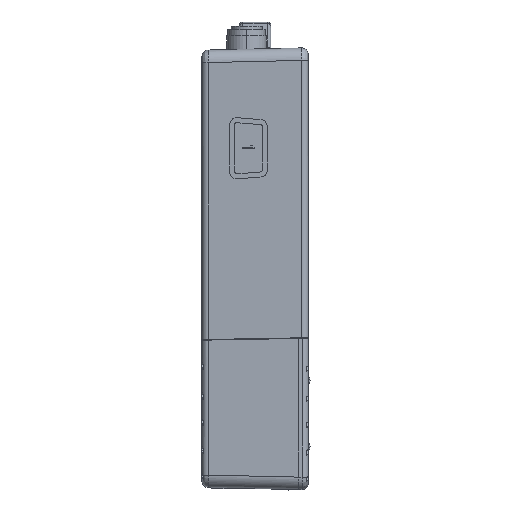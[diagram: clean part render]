
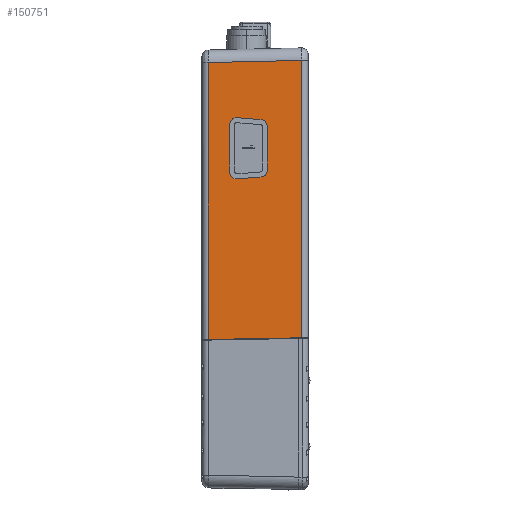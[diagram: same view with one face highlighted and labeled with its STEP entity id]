
A CAD part, left-side view. The second image highlights one B-rep face of the part: STEP entity #150751.
In plain terms, the highlighted planar face has unit normal (-1, 0.023, 0).
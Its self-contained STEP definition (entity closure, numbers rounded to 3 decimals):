
#138118=CARTESIAN_POINT('',(-30.754,7.523,
-21.609));
#138126=DIRECTION('',(-0.023,-1.,0.017));
#138127=VECTOR('',#138126,15.006);
#138128=CARTESIAN_POINT('',(-30.754,7.523,
-21.609));
#138129=LINE('',#138128,#138127);
#138136=CARTESIAN_POINT('',(-31.094,-7.477,
-21.347));
#140140=DIRECTION('',(0.,0.,1.));
#140141=VECTOR('',#140140,44.332);
#140142=CARTESIAN_POINT('',(-30.754,7.523,
-21.609));
#140143=LINE('',#140142,#140141);
#140144=DIRECTION('',(-0.023,-0.999,0.023));
#140145=VECTOR('',#140144,15.008);
#140146=CARTESIAN_POINT('',(-30.754,7.523,
22.723));
#140147=LINE('',#140146,#140145);
#140148=DIRECTION('',(0.,0.,-1.));
#140149=VECTOR('',#140148,44.41);
#140150=CARTESIAN_POINT('',(-31.094,-7.477,
23.063));
#140151=LINE('',#140150,#140149);
#140188=DIRECTION('',(-0.023,-0.996,0.083));
#140189=VECTOR('',#140188,3.813);
#140190=CARTESIAN_POINT('',(-30.86,2.848,
4.089));
#140191=LINE('',#140190,#140189);
#140192=DIRECTION('',(0.,0.,1.));
#140193=VECTOR('',#140192,6.976);
#140194=CARTESIAN_POINT('',(-30.969,-1.959,
5.502));
#140195=LINE('',#140194,#140193);
#140196=DIRECTION('',(0.023,0.996,0.083));
#140197=VECTOR('',#140196,3.813);
#140198=CARTESIAN_POINT('',(-30.946,-0.951,
13.574));
#140199=LINE('',#140198,#140197);
#140200=DIRECTION('',(0.,0.,-1.));
#140201=VECTOR('',#140200,7.609);
#140202=CARTESIAN_POINT('',(-30.833,4.039,
12.795));
#140203=LINE('',#140202,#140201);
#140232=CARTESIAN_POINT('',(-30.754,7.523,
22.723));
#141132=CARTESIAN_POINT('',(-30.858,2.94,
5.185));
#141133=DIRECTION('',(1.,-0.023,0.));
#141134=DIRECTION('',(-0.002,-0.083,
-0.997));
#141135=AXIS2_PLACEMENT_3D('',#141132,#141133,#141134);
#141145=CARTESIAN_POINT('',(-30.944,-0.859,
5.502));
#141146=DIRECTION('',(1.,-0.023,0.));
#141147=DIRECTION('',(-0.023,-1.,
0.));
#141148=AXIS2_PLACEMENT_3D('',#141145,#141146,#141147);
#141158=CARTESIAN_POINT('',(-30.944,-0.859,
12.478));
#141159=DIRECTION('',(1.,-0.023,0.));
#141160=DIRECTION('',(-0.002,-0.083,0.997));
#141161=AXIS2_PLACEMENT_3D('',#141158,#141159,#141160);
#141171=CARTESIAN_POINT('',(-30.858,2.94,
12.795));
#141172=DIRECTION('',(1.,-0.023,0.));
#141173=DIRECTION('',(0.023,1.,0.));
#141174=AXIS2_PLACEMENT_3D('',#141171,#141172,#141173);
#146237=VERTEX_POINT('',#140232);
#146238=VERTEX_POINT('',#138118);
#146241=VERTEX_POINT('',#138136);
#146242=CARTESIAN_POINT('',(-31.094,-7.477,
23.063));
#146243=VERTEX_POINT('',#146242);
#147428=CARTESIAN_POINT('',(-30.86,2.848,
4.089));
#147429=VERTEX_POINT('',#147428);
#147430=CARTESIAN_POINT('',(-30.833,4.039,
5.185));
#147431=VERTEX_POINT('',#147430);
#147436=CARTESIAN_POINT('',(-30.969,-1.959,
5.502));
#147437=VERTEX_POINT('',#147436);
#147438=CARTESIAN_POINT('',(-30.946,-0.951,
4.406));
#147439=VERTEX_POINT('',#147438);
#147444=CARTESIAN_POINT('',(-30.946,-0.951,
13.574));
#147445=VERTEX_POINT('',#147444);
#147446=CARTESIAN_POINT('',(-30.969,-1.959,
12.478));
#147447=VERTEX_POINT('',#147446);
#147452=CARTESIAN_POINT('',(-30.833,4.039,
12.795));
#147453=VERTEX_POINT('',#147452);
#147454=CARTESIAN_POINT('',(-30.86,2.848,
13.891));
#147455=VERTEX_POINT('',#147454);
#150721=CARTESIAN_POINT('',(-30.732,8.5,-47.53));
#150722=DIRECTION('',(-1.,0.023,0.));
#150723=DIRECTION('',(0.,0.,-1.));
#150724=AXIS2_PLACEMENT_3D('',#150721,#150722,#150723);
#150725=PLANE('',#150724);
#150726=ORIENTED_EDGE('',*,*,#149358,.T.);
#150728=ORIENTED_EDGE('',*,*,#150727,.T.);
#150729=ORIENTED_EDGE('',*,*,#150713,.T.);
#150730=ORIENTED_EDGE('',*,*,#149318,.F.);
#150731=EDGE_LOOP('',(#150726,#150728,#150729,#150730));
#150732=FACE_OUTER_BOUND('',#150731,.F.);
#150734=ORIENTED_EDGE('',*,*,#150733,.T.);
#150736=ORIENTED_EDGE('',*,*,#150735,.F.);
#150738=ORIENTED_EDGE('',*,*,#150737,.T.);
#150740=ORIENTED_EDGE('',*,*,#150739,.F.);
#150742=ORIENTED_EDGE('',*,*,#150741,.T.);
#150744=ORIENTED_EDGE('',*,*,#150743,.F.);
#150746=ORIENTED_EDGE('',*,*,#150745,.T.);
#150748=ORIENTED_EDGE('',*,*,#150747,.F.);
#150749=EDGE_LOOP('',(#150734,#150736,#150738,#150740,#150742,#150744,#150746,
#150748));
#150750=FACE_BOUND('',#150749,.F.);
#150751=ADVANCED_FACE('',(#150732,#150750),#150725,.T.);
#141136=CIRCLE('',#141135,1.1);
#141149=CIRCLE('',#141148,1.1);
#141162=CIRCLE('',#141161,1.1);
#141175=CIRCLE('',#141174,1.1);
#149318=EDGE_CURVE('',#146238,#146241,#138129,.T.);
#149358=EDGE_CURVE('',#146238,#146237,#140143,.T.);
#150713=EDGE_CURVE('',#146243,#146241,#140151,.T.);
#150727=EDGE_CURVE('',#146237,#146243,#140147,.T.);
#150733=EDGE_CURVE('',#147429,#147439,#140191,.T.);
#150735=EDGE_CURVE('',#147437,#147439,#141149,.T.);
#150737=EDGE_CURVE('',#147437,#147447,#140195,.T.);
#150739=EDGE_CURVE('',#147445,#147447,#141162,.T.);
#150741=EDGE_CURVE('',#147445,#147455,#140199,.T.);
#150743=EDGE_CURVE('',#147453,#147455,#141175,.T.);
#150745=EDGE_CURVE('',#147453,#147431,#140203,.T.);
#150747=EDGE_CURVE('',#147429,#147431,#141136,.T.);
